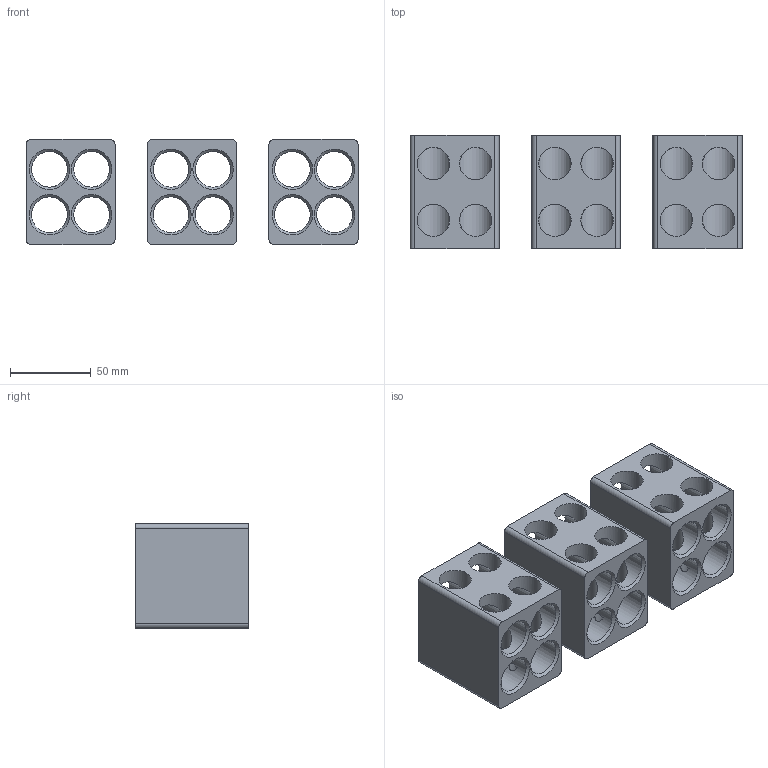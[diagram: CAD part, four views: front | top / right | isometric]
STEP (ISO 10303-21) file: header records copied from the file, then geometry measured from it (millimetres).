
FILE_DESCRIPTION (( 'STEP AP214' ), '1' );
FILE_NAME ('Êîìïëåêò çàæèìîâ ÷åòûðåõãíåçäíûõ 185 êâ ìì ÂÀ50-41 - 3 âåðõíèå.STEP', '2023-02-01T10:25:51', ( '' ), ( '' ), 'SwSTEP 2.0', 'SolidWorks 2018', '' );
FILE_SCHEMA (( 'AUTOMOTIVE_DESIGN' ));
Length unit declared in the file: millimetre
Products named in the file (1): Êîìïëåêò çàæèìîâ ÷åòûðåõãíåçäíûõ 185 êâ ìì ÂÀ50-41 - 3 âåðõíèå
Bounding box: 205 x 70 x 65 mm (x, y, z)
Volume: 357002.5 mm3; surface area: 119823.7 mm2
Topology: 3 solids, 3 shells, 102 faces, 300 edges, 192 vertices
Faces by surface type: cylinder 54, cone 30, plane 18
Full cylindrical faces by diameter (mm): 8.5 x6, 20 x24, 22 x12
Entity records: 8642 total; most frequent: CARTESIAN_POINT 5011, DIRECTION 458, ORIENTED_EDGE 420, EDGE_LOOP 258, EDGE_CURVE 210, AXIS2_PLACEMENT_3D 205, VERTEX_POINT 174, FACE_OUTER_BOUND 144
